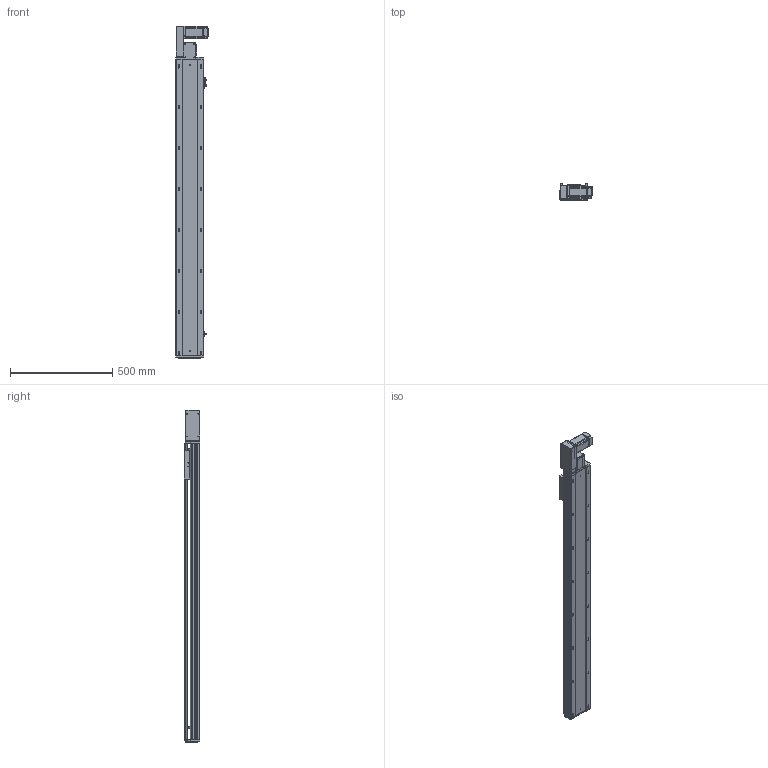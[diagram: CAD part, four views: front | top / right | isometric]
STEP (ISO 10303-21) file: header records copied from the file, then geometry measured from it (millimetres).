
FILE_DESCRIPTION (( 'STEP AP203' ), '1' );
FILE_NAME ('RY140-T-300-LK.SLDASM_1200.step', '2021-03-01T06:35:51', ( '盈信电脑' ), ( '东莞市道滘镇水果街19号' ), 'SwSTEP 2.0', 'SolidWorks 2012', '' );
FILE_SCHEMA (( 'CONFIG_CONTROL_DESIGN' ));
Length unit declared in the file: millimetre
Products named in the file (18): RY140-T-300-LK.SLDASM_1200; RY140-T萇儂欶; 滅袉蝶18-10; RY140-T翋肮謫裔啣; RY120-T主同步轮轴承压盖; 侂狟400W侜督萇儂; 15; RY120-T蹟翐M4; RY140-T萇儂假蚾啣; RY120-T肮祭湍揤踡輸1; RY140-T翋肮祭謫盓傅釱; RY120外置感应片(140共用）; RY120-T肮祭湍揤踡輸2; RY140-T-300-DL倰第奻裔啣_1200; RY140肮祭謫臏賑輸; 覜茼ん672; RY140綴裔啣; RY140-T-300-DL倰第菁釱_1200
Assembly tree (23 placements, depth 3):
  RY140-T-300-LK.SLDASM_1200
    RY140-T-300-DL倰第菁釱_1200
    RY140肮祭謫臏賑輸
    RY140-T-300-DL倰第奻裔啣_1200
    RY140綴裔啣
    覜茼ん672  x3
    RY120外置感应片(140共用）
    RY120-T肮祭湍揤踡輸2
    RY120-T肮祭湍揤踡輸1
    RY140-T翋肮祭謫盓傅釱
    RY140-T萇儂假蚾啣
    侂狟400W侜督萇儂
      15
    RY120-T主同步轮轴承压盖
    RY120-T蹟翐M4  x4
    RY140-T萇儂欶
    滅袉蝶18-10  x2
    RY140-T翋肮謫裔啣
Bounding box: 157 x 78 x 1623.5 mm (x, y, z)
Volume: 4469540 mm3; surface area: 1717631.9 mm2
Topology: 22 solids, 22 shells, 2715 faces, 7429 edges, 4756 vertices
Faces by surface type: plane 1385, cylinder 996, cone 234, bspline 100
Entity records: 85757 total; most frequent: CARTESIAN_POINT 20875, ORIENTED_EDGE 13314, DIRECTION 12689, EDGE_CURVE 6657, VERTEX_POINT 4355, VECTOR 4249, LINE 4249, AXIS2_PLACEMENT_3D 4220
